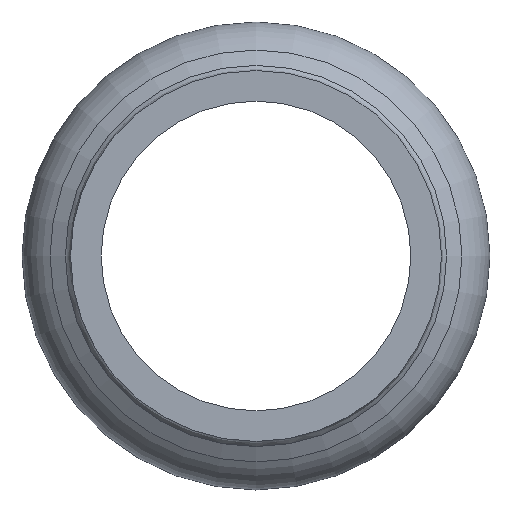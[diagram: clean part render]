
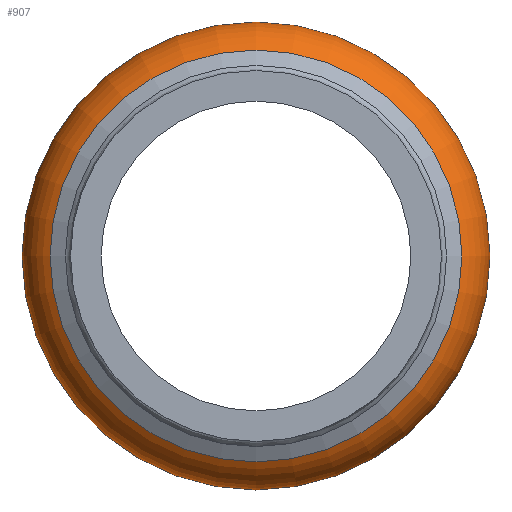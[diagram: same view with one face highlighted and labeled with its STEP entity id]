
A CAD part, left-side view. The second image highlights one B-rep face of the part: STEP entity #907.
In plain terms, the highlighted toroidal (fillet/blend) face has major radius 8.7 mm and minor radius 2.75 mm.
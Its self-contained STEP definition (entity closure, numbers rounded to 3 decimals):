
#237=CARTESIAN_POINT('',(-25.352,9.44,0.0));
#238=VERTEX_POINT('',#237);
#239=CARTESIAN_POINT('',(-25.352,0.,0.0));
#240=DIRECTION('',(1.0,0.0,0.0));
#241=DIRECTION('',(0.0,-1.0,0.0));
#242=AXIS2_PLACEMENT_3D('',#239,#240,#241);
#243=CIRCLE('',#242,9.44);
#244=EDGE_CURVE('',#238,#238,#243,.T.);
#449=CARTESIAN_POINT('',(-30.382,10.075,0.0));
#450=VERTEX_POINT('',#449);
#451=CARTESIAN_POINT('',(-30.382,0.,0.0));
#452=DIRECTION('',(1.0,0.0,0.0));
#453=DIRECTION('',(0.0,1.0,0.0));
#454=AXIS2_PLACEMENT_3D('',#451,#452,#453);
#455=CIRCLE('',#454,10.075);
#456=EDGE_CURVE('',#450,#450,#455,.T.);
#896=CARTESIAN_POINT('',(-28.,0.,0.0));
#897=DIRECTION('',(1.0,0.,0.0));
#898=DIRECTION('',(0.0,0.0,-1.0));
#899=AXIS2_PLACEMENT_3D('',#896,#897,#898);
#900=TOROIDAL_SURFACE('',#899,8.7,2.75);
#901=ORIENTED_EDGE('',*,*,#456,.T.);
#902=EDGE_LOOP('',(#901));
#903=FACE_OUTER_BOUND('',#902,.T.);
#904=ORIENTED_EDGE('',*,*,#244,.F.);
#905=EDGE_LOOP('',(#904));
#906=FACE_BOUND('',#905,.T.);
#907=ADVANCED_FACE('',(#903,#906),#900,.T.);
